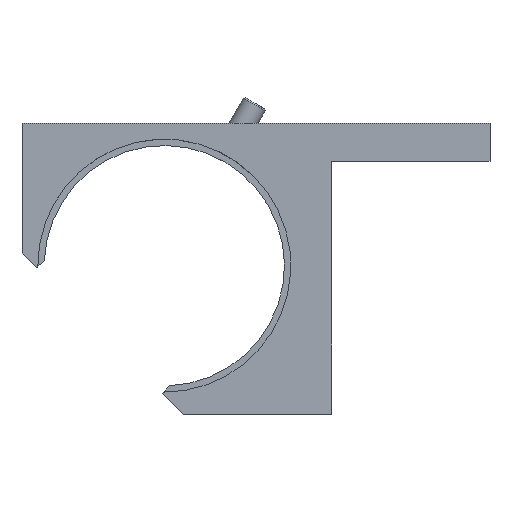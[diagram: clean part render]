
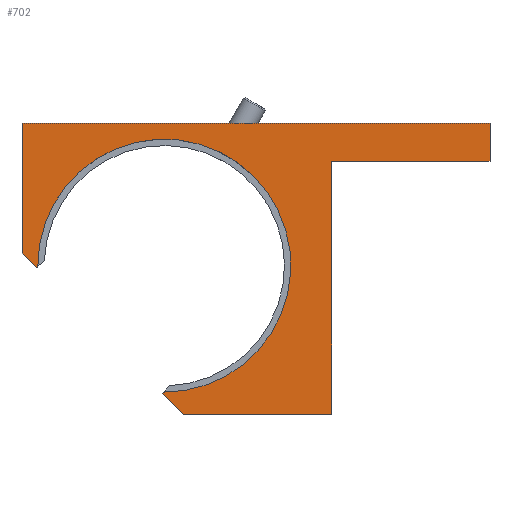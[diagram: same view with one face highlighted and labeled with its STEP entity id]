
A CAD part, top view. The second image highlights one B-rep face of the part: STEP entity #702.
In plain terms, the highlighted planar face has unit normal (0, 0, 1).
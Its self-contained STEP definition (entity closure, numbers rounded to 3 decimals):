
#43=PLANE('',#775);
#77=FACE_OUTER_BOUND('',#118,.T.);
#118=EDGE_LOOP('',(#534,#535,#536,#537,#538,#539,#540,#541,#542,#543,#544));
#152=CIRCLE('',#776,20.);
#195=LINE('',#1089,#260);
#198=LINE('',#1098,#263);
#201=LINE('',#1104,#266);
#202=LINE('',#1107,#267);
#203=LINE('',#1109,#268);
#204=LINE('',#1111,#269);
#205=LINE('',#1113,#270);
#206=LINE('',#1115,#271);
#207=LINE('',#1117,#272);
#208=LINE('',#1118,#273);
#260=VECTOR('',#897,10.);
#263=VECTOR('',#904,10.);
#266=VECTOR('',#909,10.);
#267=VECTOR('',#912,10.);
#268=VECTOR('',#913,10.);
#269=VECTOR('',#914,10.);
#270=VECTOR('',#915,10.);
#271=VECTOR('',#916,10.);
#272=VECTOR('',#917,10.);
#273=VECTOR('',#918,10.);
#325=VERTEX_POINT('',#1079);
#329=VERTEX_POINT('',#1087);
#331=VERTEX_POINT('',#1092);
#333=VERTEX_POINT('',#1096);
#335=VERTEX_POINT('',#1102);
#336=VERTEX_POINT('',#1106);
#337=VERTEX_POINT('',#1108);
#338=VERTEX_POINT('',#1110);
#339=VERTEX_POINT('',#1112);
#340=VERTEX_POINT('',#1114);
#341=VERTEX_POINT('',#1116);
#402=EDGE_CURVE('',#325,#329,#195,.T.);
#406=EDGE_CURVE('',#331,#333,#198,.T.);
#409=EDGE_CURVE('',#335,#329,#201,.T.);
#410=EDGE_CURVE('',#336,#335,#202,.T.);
#411=EDGE_CURVE('',#337,#336,#203,.T.);
#412=EDGE_CURVE('',#338,#337,#204,.T.);
#413=EDGE_CURVE('',#339,#338,#205,.T.);
#414=EDGE_CURVE('',#340,#339,#206,.T.);
#415=EDGE_CURVE('',#341,#340,#207,.T.);
#416=EDGE_CURVE('',#331,#341,#208,.T.);
#417=EDGE_CURVE('',#333,#325,#152,.T.);
#534=ORIENTED_EDGE('',*,*,#402,.T.);
#535=ORIENTED_EDGE('',*,*,#409,.F.);
#536=ORIENTED_EDGE('',*,*,#410,.F.);
#537=ORIENTED_EDGE('',*,*,#411,.F.);
#538=ORIENTED_EDGE('',*,*,#412,.F.);
#539=ORIENTED_EDGE('',*,*,#413,.F.);
#540=ORIENTED_EDGE('',*,*,#414,.F.);
#541=ORIENTED_EDGE('',*,*,#415,.F.);
#542=ORIENTED_EDGE('',*,*,#416,.F.);
#543=ORIENTED_EDGE('',*,*,#406,.T.);
#544=ORIENTED_EDGE('',*,*,#417,.T.);
#702=ADVANCED_FACE('',(#77),#43,.T.);
#775=AXIS2_PLACEMENT_3D('',#1105,#910,#911);
#776=AXIS2_PLACEMENT_3D('',#1119,#919,#920);
#897=DIRECTION('',(-0.707,-0.707,0.));
#904=DIRECTION('',(0.707,0.707,0.));
#909=DIRECTION('',(-0.707,0.707,0.));
#910=DIRECTION('center_axis',(0.,0.,1.));
#911=DIRECTION('ref_axis',(1.,0.,0.));
#912=DIRECTION('',(-1.,0.,0.));
#913=DIRECTION('',(0.,-1.,0.));
#914=DIRECTION('',(-1.,0.,0.));
#915=DIRECTION('',(0.,-1.,0.));
#916=DIRECTION('',(1.,0.,0.));
#917=DIRECTION('',(0.,1.,0.));
#918=DIRECTION('',(-0.707,0.707,0.));
#919=DIRECTION('center_axis',(0.,0.,-1.));
#920=DIRECTION('ref_axis',(1.,0.,0.));
#1079=CARTESIAN_POINT('',(22.3,-11.163,8.));
#1087=CARTESIAN_POINT('',(22.149,-11.313,8.));
#1089=CARTESIAN_POINT('',(28.852,-4.611,8.));
#1092=CARTESIAN_POINT('',(2.351,8.486,8.));
#1096=CARTESIAN_POINT('',(2.501,8.636,8.));
#1098=CARTESIAN_POINT('',(13.798,19.934,8.));
#1102=CARTESIAN_POINT('',(25.5,-14.664,8.));
#1104=CARTESIAN_POINT('',(14.167,-3.33,8.));
#1105=CARTESIAN_POINT('Origin',(32.833,12.503,8.));
#1106=CARTESIAN_POINT('',(49.,-14.664,8.));
#1107=CARTESIAN_POINT('',(49.,-14.664,8.));
#1108=CARTESIAN_POINT('',(49.,25.336,8.));
#1109=CARTESIAN_POINT('',(49.,25.336,8.));
#1110=CARTESIAN_POINT('',(74.,25.336,8.));
#1111=CARTESIAN_POINT('',(74.,25.336,8.));
#1112=CARTESIAN_POINT('',(74.,31.336,8.));
#1113=CARTESIAN_POINT('',(74.,31.336,8.));
#1114=CARTESIAN_POINT('',(0.,31.336,8.));
#1115=CARTESIAN_POINT('',(0.,31.336,8.));
#1116=CARTESIAN_POINT('',(0.,10.836,8.));
#1117=CARTESIAN_POINT('',(0.,-14.664,8.));
#1118=CARTESIAN_POINT('',(14.167,-3.33,8.));
#1119=CARTESIAN_POINT('Origin',(22.5,8.836,8.));
